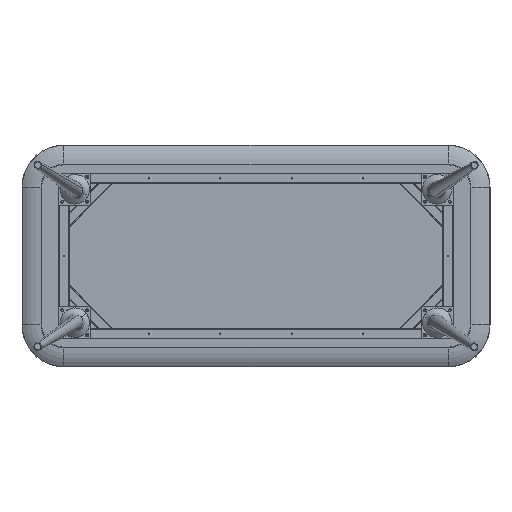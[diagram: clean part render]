
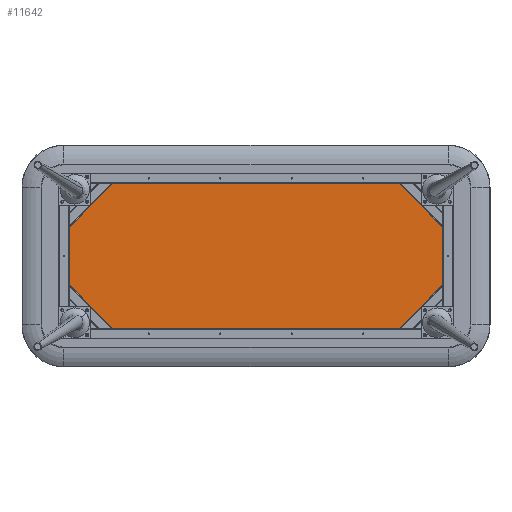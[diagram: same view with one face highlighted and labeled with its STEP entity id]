
A CAD part, front view. The second image highlights one B-rep face of the part: STEP entity #11642.
In plain terms, the highlighted planar face has unit normal (0, -1, 0).
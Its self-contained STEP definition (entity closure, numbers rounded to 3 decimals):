
#917 = CARTESIAN_POINT ( 'NONE',  ( 831.21, 138.43, 87.607 ) ) ;
#1398 = ORIENTED_EDGE ( 'NONE', *, *, #13220, .T. ) ;
#1973 = DIRECTION ( 'NONE',  ( 1., 0., 0. ) ) ;
#2520 = ORIENTED_EDGE ( 'NONE', *, *, #26597, .T. ) ;
#2744 = VECTOR ( 'NONE', #1973, 1000. ) ;
#3201 = PLANE ( 'NONE',  #15584 ) ;
#3775 = VECTOR ( 'NONE', #26883, 1000. ) ;
#4373 = VECTOR ( 'NONE', #14641, 1000. ) ;
#4987 = EDGE_CURVE ( 'NONE', #22139, #23098, #10895, .T. ) ;
#5312 = CARTESIAN_POINT ( 'NONE',  ( 831.21, 138.43, 675.607 ) ) ;
#5446 = DIRECTION ( 'NONE',  ( 0.706, 0., 0.708 ) ) ;
#5517 = LINE ( 'NONE', #26800, #16879 ) ;
#5621 = DIRECTION ( 'NONE',  ( 0., 1., 0. ) ) ;
#6369 = LINE ( 'NONE', #15929, #29186 ) ;
#6389 = CARTESIAN_POINT ( 'NONE',  ( -333.784, 138.43, 675.607 ) ) ;
#6798 = ORIENTED_EDGE ( 'NONE', *, *, #16837, .T. ) ;
#7143 = VERTEX_POINT ( 'NONE', #14871 ) ;
#8242 = CARTESIAN_POINT ( 'NONE',  ( -333.784, 138.43, 87.607 ) ) ;
#8588 = DIRECTION ( 'NONE',  ( 0.706, 0., -0.708 ) ) ;
#9464 = LINE ( 'NONE', #27857, #14796 ) ;
#9469 = CARTESIAN_POINT ( 'NONE',  ( -510.287, 138.43, 498.607 ) ) ;
#9685 = VERTEX_POINT ( 'NONE', #28405 ) ;
#10288 = EDGE_LOOP ( 'NONE', ( #24757, #1398, #23422, #23869, #2520, #6798, #14755, #17583 ) ) ;
#10441 = LINE ( 'NONE', #14548, #4373 ) ;
#10610 = EDGE_CURVE ( 'NONE', #29305, #22139, #27287, .T. ) ;
#10895 = LINE ( 'NONE', #9469, #27605 ) ;
#11368 = CARTESIAN_POINT ( 'NONE',  ( -333.784, 138.43, 675.607 ) ) ;
#11642 = ADVANCED_FACE ( 'NONE', ( #27233 ), #3201, .F. ) ;
#13220 = EDGE_CURVE ( 'NONE', #27670, #29305, #6369, .T. ) ;
#13533 = VECTOR ( 'NONE', #5446, 1000. ) ;
#13664 = DIRECTION ( 'NONE',  ( -0.706, 0., 0.708 ) ) ;
#13870 = EDGE_CURVE ( 'NONE', #9685, #27670, #9464, .T. ) ;
#14218 = DIRECTION ( 'NONE',  ( 0., 0., 1. ) ) ;
#14548 = CARTESIAN_POINT ( 'NONE',  ( -510.287, 138.43, 498.607 ) ) ;
#14641 = DIRECTION ( 'NONE',  ( 0., 0., -1. ) ) ;
#14755 = ORIENTED_EDGE ( 'NONE', *, *, #19941, .T. ) ;
#14796 = VECTOR ( 'NONE', #14218, 1000. ) ;
#14871 = CARTESIAN_POINT ( 'NONE',  ( -510.287, 138.43, 264.607 ) ) ;
#15209 = VERTEX_POINT ( 'NONE', #917 ) ;
#15584 = AXIS2_PLACEMENT_3D ( 'NONE', #19182, #5621, #21492 ) ;
#15929 = CARTESIAN_POINT ( 'NONE',  ( 1007.713, 138.43, 498.607 ) ) ;
#16306 = DIRECTION ( 'NONE',  ( -0.706, 0., -0.708 ) ) ;
#16837 = EDGE_CURVE ( 'NONE', #7143, #27331, #5517, .T. ) ;
#16879 = VECTOR ( 'NONE', #8588, 1000. ) ;
#17583 = ORIENTED_EDGE ( 'NONE', *, *, #22449, .T. ) ;
#19182 = CARTESIAN_POINT ( 'NONE',  ( 248.713, 138.43, 381.607 ) ) ;
#19526 = LINE ( 'NONE', #21322, #13533 ) ;
#19941 = EDGE_CURVE ( 'NONE', #27331, #15209, #27004, .T. ) ;
#21322 = CARTESIAN_POINT ( 'NONE',  ( 1007.713, 138.43, 264.607 ) ) ;
#21402 = CARTESIAN_POINT ( 'NONE',  ( 1007.713, 138.43, 498.607 ) ) ;
#21492 = DIRECTION ( 'NONE',  ( 0., 0., 1. ) ) ;
#22139 = VERTEX_POINT ( 'NONE', #11368 ) ;
#22449 = EDGE_CURVE ( 'NONE', #15209, #9685, #19526, .T. ) ;
#23098 = VERTEX_POINT ( 'NONE', #29131 ) ;
#23422 = ORIENTED_EDGE ( 'NONE', *, *, #10610, .T. ) ;
#23869 = ORIENTED_EDGE ( 'NONE', *, *, #4987, .T. ) ;
#24643 = CARTESIAN_POINT ( 'NONE',  ( 831.21, 138.43, 87.607 ) ) ;
#24757 = ORIENTED_EDGE ( 'NONE', *, *, #13870, .T. ) ;
#26597 = EDGE_CURVE ( 'NONE', #23098, #7143, #10441, .T. ) ;
#26800 = CARTESIAN_POINT ( 'NONE',  ( -510.287, 138.43, 264.607 ) ) ;
#26883 = DIRECTION ( 'NONE',  ( -1., 0., 0. ) ) ;
#27004 = LINE ( 'NONE', #24643, #2744 ) ;
#27233 = FACE_OUTER_BOUND ( 'NONE', #10288, .T. ) ;
#27287 = LINE ( 'NONE', #6389, #3775 ) ;
#27331 = VERTEX_POINT ( 'NONE', #8242 ) ;
#27605 = VECTOR ( 'NONE', #16306, 1000. ) ;
#27670 = VERTEX_POINT ( 'NONE', #21402 ) ;
#27857 = CARTESIAN_POINT ( 'NONE',  ( 1007.713, 138.43, 498.607 ) ) ;
#28405 = CARTESIAN_POINT ( 'NONE',  ( 1007.713, 138.43, 264.607 ) ) ;
#29131 = CARTESIAN_POINT ( 'NONE',  ( -510.287, 138.43, 498.607 ) ) ;
#29186 = VECTOR ( 'NONE', #13664, 1000. ) ;
#29305 = VERTEX_POINT ( 'NONE', #5312 ) ;
